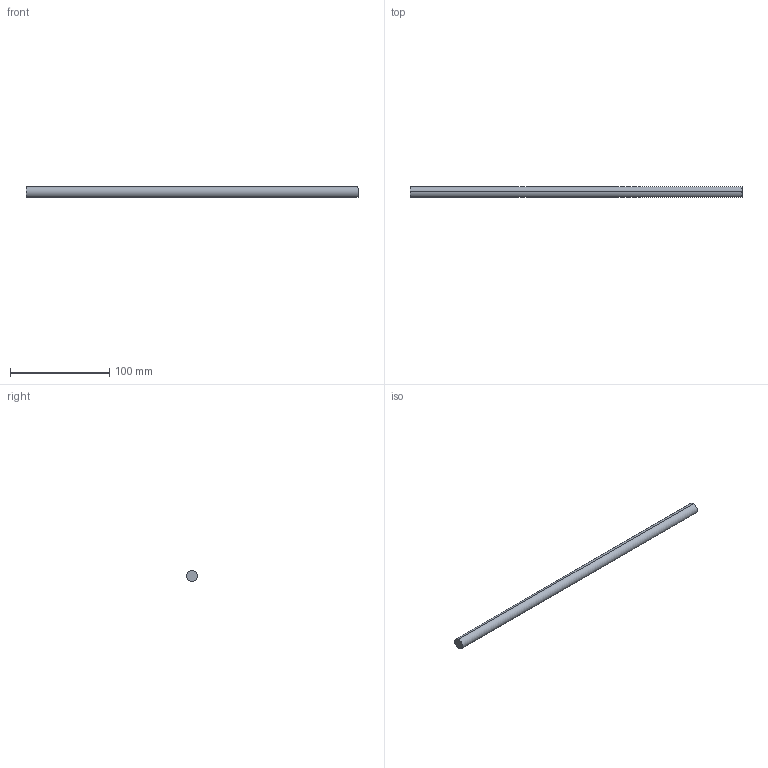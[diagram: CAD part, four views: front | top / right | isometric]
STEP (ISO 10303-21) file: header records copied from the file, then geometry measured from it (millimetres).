
FILE_DESCRIPTION (( 'STEP AP214' ), '1' );
FILE_NAME ('Querreling_Frontblende_Innenlade_KS-19_25mm-Halter_KAB-450.step', '2010-09-22T15:05:44', ( 'grass' ), ( '' ), 'SwSTEP 2.0', 'SolidWorks 2010', '' );
FILE_SCHEMA (( 'AUTOMOTIVE_DESIGN' ));
Length unit declared in the file: millimetre
Products named in the file (1): Querreling_Frontblende_Innenlade_KS-19_25mm-Halter_KAB-450
Bounding box: 334 x 11 x 11 mm (x, y, z)
Volume: 31741.1 mm3; surface area: 11732.3 mm2
Topology: 1 solids, 1 shells, 4 faces, 6 edges, 4 vertices
Faces by surface type: cylinder 2, plane 2
Entity records: 128 total; most frequent: DIRECTION 20, CARTESIAN_POINT 15, ORIENTED_EDGE 12, AXIS2_PLACEMENT_3D 9, EDGE_CURVE 6, EDGE_LOOP 4, FACE_OUTER_BOUND 4, CIRCLE 4
